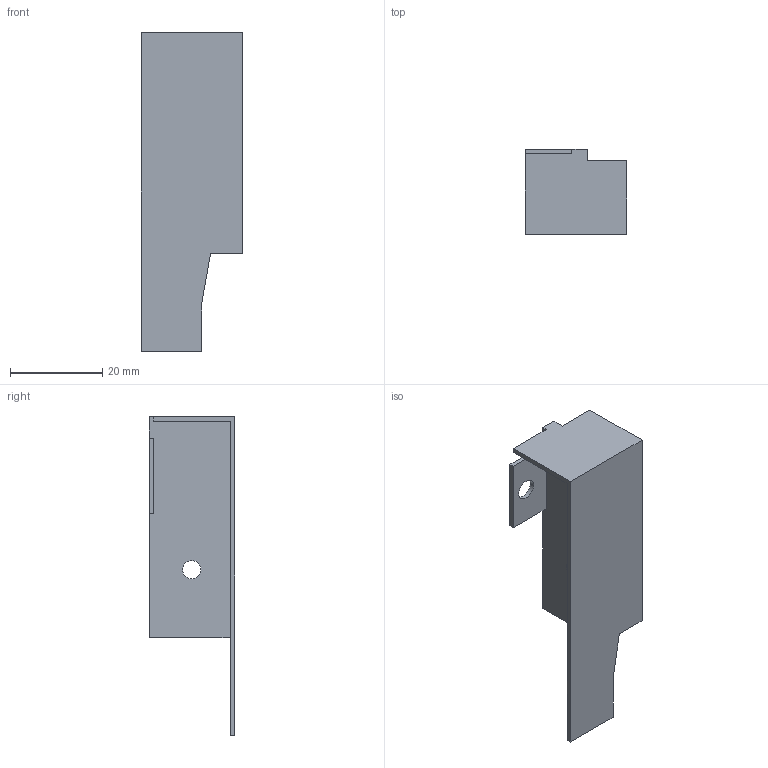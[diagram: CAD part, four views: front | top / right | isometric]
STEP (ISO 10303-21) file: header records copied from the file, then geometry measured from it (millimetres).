
FILE_DESCRIPTION (( 'STEP AP214' ), '1' );
FILE_NAME ('DWD-XP_Holzrueckwandadapter rechts H86 geschlossen.step', '2010-09-27T15:14:26', ( 'grass' ), ( '' ), 'SwSTEP 2.0', 'SolidWorks 2010', '' );
FILE_SCHEMA (( 'AUTOMOTIVE_DESIGN' ));
Length unit declared in the file: millimetre
Products named in the file (1): DWD-XP_Holzrueckwandadapter rechts H86 geschlossen
Bounding box: 22 x 18.5 x 69.1 mm (x, y, z)
Volume: 10465.1 mm3; surface area: 5704.4 mm2
Topology: 1 solids, 1 shells, 23 faces, 63 edges, 42 vertices
Faces by surface type: plane 19, cylinder 4
Entity records: 767 total; most frequent: CARTESIAN_POINT 129, ORIENTED_EDGE 126, DIRECTION 119, EDGE_CURVE 63, LINE 55, VECTOR 55, VERTEX_POINT 42, AXIS2_PLACEMENT_3D 32
